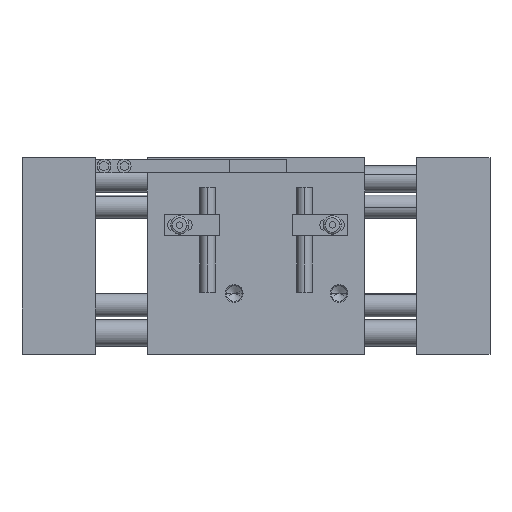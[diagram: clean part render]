
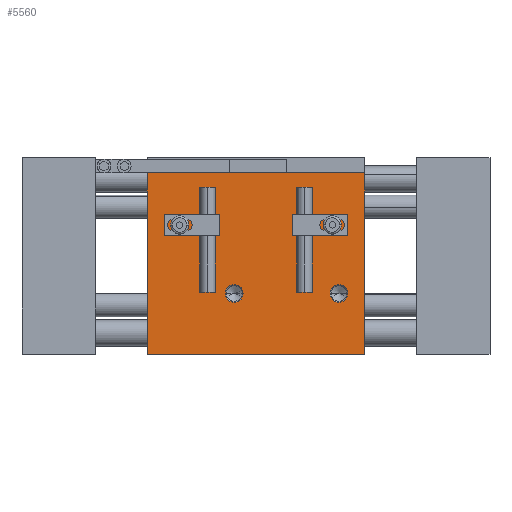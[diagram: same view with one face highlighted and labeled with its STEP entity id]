
A CAD part, top view. The second image highlights one B-rep face of the part: STEP entity #5560.
In plain terms, the highlighted planar face has unit normal (0, 0, 1).
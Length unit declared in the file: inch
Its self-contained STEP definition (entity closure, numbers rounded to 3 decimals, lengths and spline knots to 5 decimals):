
#89 = ORIENTED_EDGE ( 'NONE', *, *, #8102, .T. ) ;
#266 = CIRCLE ( 'NONE', #4328, 0.0895 ) ;
#423 = EDGE_LOOP ( 'NONE', ( #3998, #1621, #89, #553 ) ) ;
#430 = VERTEX_POINT ( 'NONE', #5015 ) ;
#465 = VECTOR ( 'NONE', #2578, 39.37008 ) ;
#553 = ORIENTED_EDGE ( 'NONE', *, *, #6788, .T. ) ;
#663 = LINE ( 'NONE', #7642, #465 ) ;
#748 = CARTESIAN_POINT ( 'NONE',  ( 0.84, -0.38, 0.75 ) ) ;
#908 = VERTEX_POINT ( 'NONE', #3570 ) ;
#1104 = EDGE_CURVE ( 'NONE', #5284, #908, #4848, .T. ) ;
#1164 = DIRECTION ( 'NONE',  ( 1., 0., 0. ) ) ;
#1395 = DIRECTION ( 'NONE',  ( -1., 0., 0. ) ) ;
#1451 = VECTOR ( 'NONE', #6702, 39.37008 ) ;
#1621 = ORIENTED_EDGE ( 'NONE', *, *, #2914, .F. ) ;
#1630 = CARTESIAN_POINT ( 'NONE',  ( -1.1, 1., 0.75 ) ) ;
#1741 = AXIS2_PLACEMENT_3D ( 'NONE', #4294, #6214, #2430 ) ;
#1746 = EDGE_CURVE ( 'NONE', #6979, #2965, #1764, .T. ) ;
#1764 = CIRCLE ( 'NONE', #5832, 0.0895 ) ;
#1781 = FACE_BOUND ( 'NONE', #4483, .T. ) ;
#1797 = CARTESIAN_POINT ( 'NONE',  ( 0.84, -0.38, 0.75 ) ) ;
#1859 = VECTOR ( 'NONE', #5897, 39.37008 ) ;
#1862 = CARTESIAN_POINT ( 'NONE',  ( -0.22, -0.38, 0.75 ) ) ;
#2153 = ORIENTED_EDGE ( 'NONE', *, *, #6647, .T. ) ;
#2204 = VERTEX_POINT ( 'NONE', #5379 ) ;
#2430 = DIRECTION ( 'NONE',  ( -1., 0., 0. ) ) ;
#2432 = DIRECTION ( 'NONE',  ( -1., 0., 0. ) ) ;
#2492 = DIRECTION ( 'NONE',  ( -1., 0., 0. ) ) ;
#2578 = DIRECTION ( 'NONE',  ( 0., 1., 0. ) ) ;
#2620 = CARTESIAN_POINT ( 'NONE',  ( 1.1, 0.84, 0.75 ) ) ;
#2890 = CARTESIAN_POINT ( 'NONE',  ( 0.9295, -0.38, 0.75 ) ) ;
#2914 = EDGE_CURVE ( 'NONE', #2204, #5209, #7100, .T. ) ;
#2965 = VERTEX_POINT ( 'NONE', #4979 ) ;
#3066 = FACE_OUTER_BOUND ( 'NONE', #423, .T. ) ;
#3207 = CARTESIAN_POINT ( 'NONE',  ( -1.1, -1., 0.75 ) ) ;
#3248 = DIRECTION ( 'NONE',  ( 0., 0., -1. ) ) ;
#3344 = LINE ( 'NONE', #6551, #1859 ) ;
#3516 = VECTOR ( 'NONE', #1164, 39.37008 ) ;
#3570 = CARTESIAN_POINT ( 'NONE',  ( -0.1305, -0.38, 0.75 ) ) ;
#3998 = ORIENTED_EDGE ( 'NONE', *, *, #7244, .T. ) ;
#4126 = CIRCLE ( 'NONE', #6787, 0.0895 ) ;
#4294 = CARTESIAN_POINT ( 'NONE',  ( -1.1, 1., 0.75 ) ) ;
#4328 = AXIS2_PLACEMENT_3D ( 'NONE', #7051, #3248, #7698 ) ;
#4483 = EDGE_LOOP ( 'NONE', ( #7178, #2153 ) ) ;
#4572 = CARTESIAN_POINT ( 'NONE',  ( -0.3095, -0.38, 0.75 ) ) ;
#4848 = CIRCLE ( 'NONE', #7612, 0.0895 ) ;
#4950 = CARTESIAN_POINT ( 'NONE',  ( -1.1, 0.84, 0.75 ) ) ;
#4979 = CARTESIAN_POINT ( 'NONE',  ( 0.7505, -0.38, 0.75 ) ) ;
#5015 = CARTESIAN_POINT ( 'NONE',  ( 1.1, -1., 0.75 ) ) ;
#5152 = VERTEX_POINT ( 'NONE', #3207 ) ;
#5186 = DIRECTION ( 'NONE',  ( 0., 0., -1. ) ) ;
#5209 = VERTEX_POINT ( 'NONE', #2620 ) ;
#5284 = VERTEX_POINT ( 'NONE', #4572 ) ;
#5379 = CARTESIAN_POINT ( 'NONE',  ( -1.1, 0.84, 0.75 ) ) ;
#5560 = ADVANCED_FACE ( 'NONE', ( #8147, #1781, #3066 ), #5580, .F. ) ;
#5580 = PLANE ( 'NONE',  #1741 ) ;
#5832 = AXIS2_PLACEMENT_3D ( 'NONE', #1797, #6219, #2432 ) ;
#5897 = DIRECTION ( 'NONE',  ( 1., 0., 0. ) ) ;
#5958 = ORIENTED_EDGE ( 'NONE', *, *, #1104, .T. ) ;
#6214 = DIRECTION ( 'NONE',  ( 0., 0., -1. ) ) ;
#6219 = DIRECTION ( 'NONE',  ( 0., 0., -1. ) ) ;
#6277 = DIRECTION ( 'NONE',  ( 0., 0., -1. ) ) ;
#6286 = ORIENTED_EDGE ( 'NONE', *, *, #7281, .T. ) ;
#6551 = CARTESIAN_POINT ( 'NONE',  ( -1.1, -1., 0.75 ) ) ;
#6647 = EDGE_CURVE ( 'NONE', #2965, #6979, #4126, .T. ) ;
#6702 = DIRECTION ( 'NONE',  ( 0., -1., 0. ) ) ;
#6713 = LINE ( 'NONE', #1630, #1451 ) ;
#6787 = AXIS2_PLACEMENT_3D ( 'NONE', #748, #5186, #1395 ) ;
#6788 = EDGE_CURVE ( 'NONE', #5152, #430, #3344, .T. ) ;
#6979 = VERTEX_POINT ( 'NONE', #2890 ) ;
#7051 = CARTESIAN_POINT ( 'NONE',  ( -0.22, -0.38, 0.75 ) ) ;
#7100 = LINE ( 'NONE', #4950, #3516 ) ;
#7178 = ORIENTED_EDGE ( 'NONE', *, *, #1746, .T. ) ;
#7244 = EDGE_CURVE ( 'NONE', #430, #5209, #663, .T. ) ;
#7281 = EDGE_CURVE ( 'NONE', #908, #5284, #266, .T. ) ;
#7612 = AXIS2_PLACEMENT_3D ( 'NONE', #1862, #6277, #2492 ) ;
#7642 = CARTESIAN_POINT ( 'NONE',  ( 1.1, -1., 0.75 ) ) ;
#7698 = DIRECTION ( 'NONE',  ( -1., 0., 0. ) ) ;
#8087 = EDGE_LOOP ( 'NONE', ( #6286, #5958 ) ) ;
#8102 = EDGE_CURVE ( 'NONE', #2204, #5152, #6713, .T. ) ;
#8147 = FACE_BOUND ( 'NONE', #8087, .T. ) ;
